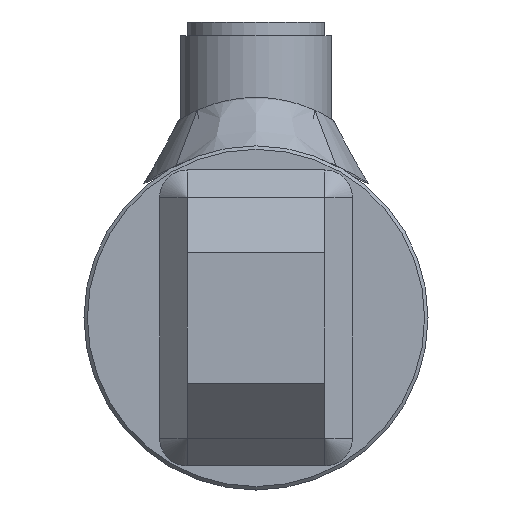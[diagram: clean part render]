
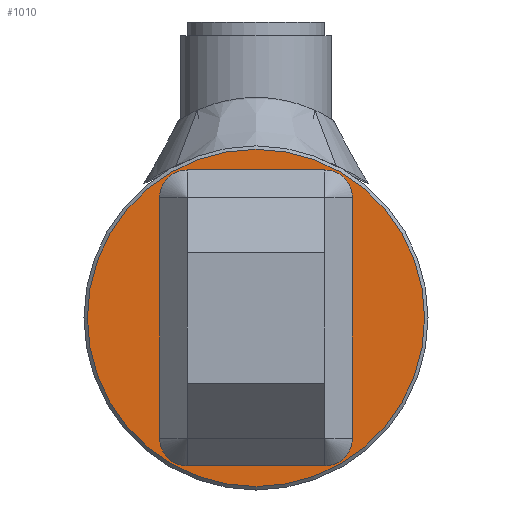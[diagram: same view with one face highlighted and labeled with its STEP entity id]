
A CAD part, left-side view. The second image highlights one B-rep face of the part: STEP entity #1010.
In plain terms, the highlighted planar face has unit normal (-1, 0, 0).
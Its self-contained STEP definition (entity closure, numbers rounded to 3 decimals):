
#1010 = ADVANCED_FACE( '', ( #1817 ), #1818, .T. );
#1817 = FACE_OUTER_BOUND( '', #3757, .T. );
#1818 = PLANE( '', #3758 );
#3757 = EDGE_LOOP( '', ( #6377 ) );
#3758 = AXIS2_PLACEMENT_3D( '', #6378, #6379, #6380 );
#6377 = ORIENTED_EDGE( '', *, *, #7991, .T. );
#6378 = CARTESIAN_POINT( '', ( -10., 0., 0. ) );
#6379 = DIRECTION( '', ( -1., 0., 0. ) );
#6380 = DIRECTION( '', ( 0., -1., 0. ) );
#7991 = EDGE_CURVE( '', #9016, #9016, #9017, .T. );
#9016 = VERTEX_POINT( '', #10548 );
#9017 = CIRCLE( '', #10549, 24.5 );
#10548 = CARTESIAN_POINT( '', ( -10., -24.5, 0. ) );
#10549 = AXIS2_PLACEMENT_3D( '', #12062, #12063, #12064 );
#12062 = CARTESIAN_POINT( '', ( -10., 0., 0. ) );
#12063 = DIRECTION( '', ( -1., 0., 0. ) );
#12064 = DIRECTION( '', ( 0., -1., 0. ) );
